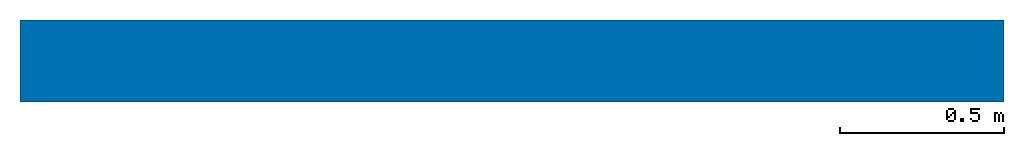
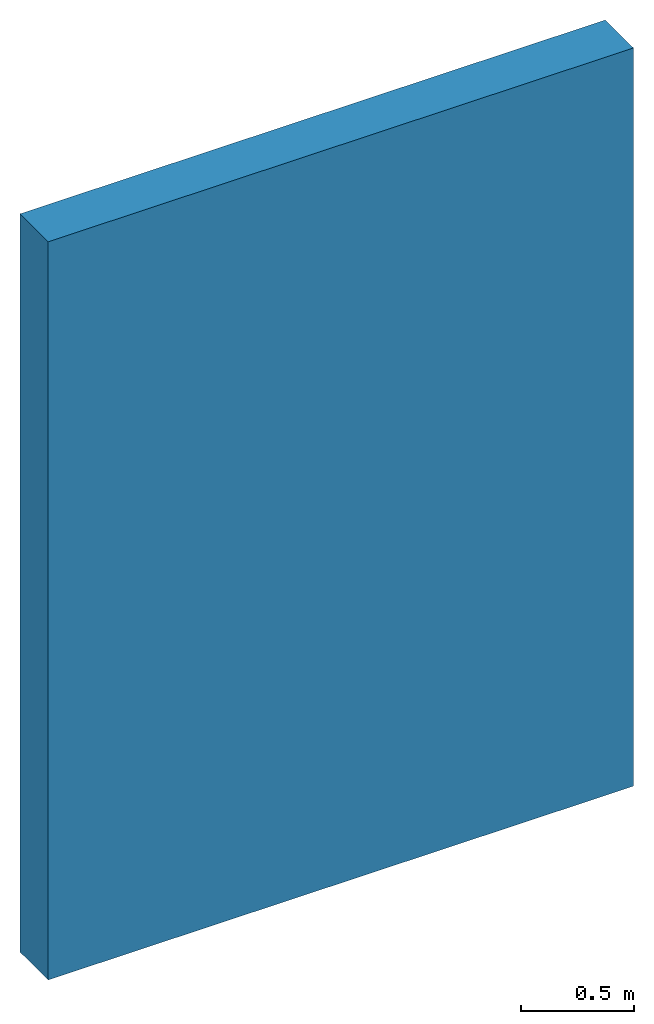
# One storey: 1 wall.
"""IFC2X3 building model written with IfcOpenShell, lengths in millimetres."""

import ifcopenshell
import ifcopenshell.guid

model = None  # the IFC model being written
_history = None  # IfcOwnerHistory: only IFC2X3 demands one
_inside = {}  # id of a spatial element -> (the spatial element, [elements in it])
_under = {}  # id of a project, library or spatial element -> (it, [spatial elements below it])
_declared = {}  # id of a project -> (the project, [libraries it declares])
_typed = {}  # id of a type object -> (the type object, [elements of that type])
_made_of = {}  # id of a material, layer set ... -> (it, [elements and type objects made of it])


def new_model(schema):
    """Start an empty IFC model of exactly this schema.

    Asked for "IFC4X3", IfcOpenShell would pick the latest addendum, in which some entities
    have other attributes; the version numbers below select the first issue.
    IFC2X3 requires an IfcOwnerHistory on every rooted entity: one is made here for all.
    """
    global model, _history
    if schema == "IFC4X3":
        model = ifcopenshell.file(schema_version=(4, 3, 0, 0))
    else:
        model = ifcopenshell.file(schema=schema)
    _inside.clear()
    _under.clear()
    _declared.clear()
    _typed.clear()
    _made_of.clear()
    _history = None
    if model.schema == "IFC2X3":
        org = make("IfcOrganization", Name="unknown")
        user = make(
            "IfcPersonAndOrganization",
            ThePerson=make("IfcPerson", FamilyName="unknown"),
            TheOrganization=org,
        )
        app = make(
            "IfcApplication",
            ApplicationDeveloper=org,
            Version="unknown",
            ApplicationFullName="unknown",
            ApplicationIdentifier="unknown",
        )
        _history = make(
            "IfcOwnerHistory",
            OwningUser=user,
            OwningApplication=app,
            ChangeAction="ADDED",
            CreationDate=0,
        )
    return model


def make(cls, **values):
    """One entity of the class cls with the attributes given. An attribute that is None is left unset."""
    return model.create_entity(
        cls, **{name: value for name, value in values.items() if value is not None}
    )


def entity(cls, *values):
    """Any entity or typed value of the class cls, its attributes in the order of the schema. None: left unset."""
    e = model.create_entity(cls)
    for i, value in enumerate(values):
        if value is not None:
            e[i] = value
    return e


def rooted(cls, **values):
    """An entity with a GlobalId (a new one), such as an element, a storey or a relation."""
    return make(cls, GlobalId=ifcopenshell.guid.new(), OwnerHistory=_history, **values)


def si_unit(unit_type, name, prefix=None):
    """IfcSIUnit, for example si_unit("LENGTHUNIT", "METRE", prefix="MILLI")."""
    return make("IfcSIUnit", UnitType=unit_type, Prefix=prefix, Name=name)


def converted_unit(unit_type, name, factor, base, dimensions=None, offset=None):
    """IfcConversionBasedUnit, such as the inch: factor (a typed value) times the base unit."""
    return make(
        "IfcConversionBasedUnit"
        if offset is None
        else "IfcConversionBasedUnitWithOffset",
        ConversionOffset=offset,
        Dimensions=None
        if dimensions is None
        else entity("IfcDimensionalExponents", *dimensions),
        UnitType=unit_type,
        Name=name,
        ConversionFactor=make(
            "IfcMeasureWithUnit", ValueComponent=factor, UnitComponent=base
        ),
    )


def derived_unit(unit_type, elements):
    """IfcDerivedUnit: a product of units, each with its exponent."""
    return make(
        "IfcDerivedUnit",
        Elements=[
            make("IfcDerivedUnitElement", Unit=unit, Exponent=power)
            for unit, power in elements
        ],
        UnitType=unit_type,
    )


def assignment(units):
    """IfcUnitAssignment: the units of a project."""
    return None if units is None else make("IfcUnitAssignment", Units=units)


def point(xyz):
    """IfcCartesianPoint."""
    return None if xyz is None else make("IfcCartesianPoint", Coordinates=xyz)


def direction(xyz):
    """IfcDirection."""
    return None if xyz is None else make("IfcDirection", DirectionRatios=xyz)


def frame(location, z_axis=None, x_axis=None):
    """IfcAxis2Placement3D, a coordinate frame: its origin and axes. An axis left out is left unset."""
    return make(
        "IfcAxis2Placement3D",
        Location=point(location),
        Axis=direction(z_axis),
        RefDirection=direction(x_axis),
    )


def frame_2d(location, x_axis=None):
    """IfcAxis2Placement2D, a coordinate frame in the plane: its origin and x axis."""
    return make(
        "IfcAxis2Placement2D", Location=point(location), RefDirection=direction(x_axis)
    )


def origin():
    """The frame at (0, 0, 0) with its axes left unset."""
    return frame((0.0, 0.0, 0.0))


def place(relative_to, where):
    """IfcLocalPlacement: puts the frame where relative to a parent placement (None: the world)."""
    return make(
        "IfcLocalPlacement", PlacementRelTo=relative_to, RelativePlacement=where
    )


def context(
    kind, dimensions, precision=None, world=None, true_north=None, identifier=None
):
    """IfcGeometricRepresentationContext, for example the 3D "Model" context."""
    return make(
        "IfcGeometricRepresentationContext",
        ContextIdentifier=identifier,
        ContextType=kind,
        CoordinateSpaceDimension=dimensions,
        Precision=precision,
        WorldCoordinateSystem=world,
        TrueNorth=true_north,
    )


def subcontext(parent, identifier, kind, view, scale=None):
    """IfcGeometricRepresentationSubContext, for example "Body" below "Model"."""
    return make(
        "IfcGeometricRepresentationSubContext",
        ContextIdentifier=identifier,
        ContextType=kind,
        ParentContext=parent,
        TargetScale=scale,
        TargetView=view,
    )


def project(units=None, contexts=None):
    """IfcProject with its units and contexts."""
    return rooted(
        "IfcProject",
        Name="project",
        RepresentationContexts=contexts,
        UnitsInContext=assignment(units),
    )


def spatial(cls, under=None, at=None, **own):
    """A site, building, storey or space (cls), placed at a placement, below another one or the project."""
    s = rooted(cls, ObjectPlacement=at, **own)
    if under is not None:
        _under.setdefault(under.id(), (under, []))[1].append(s)
    return s


def profile(cls, at=None, kind="AREA", **sizes):
    """A parametric profile (cls). Its sizes go by their IFC names, for example OverallWidth=200.0."""
    return make(cls, ProfileType=kind, Position=at, **sizes)


def rectangle(**sizes):
    """IfcRectangleProfileDef."""
    return profile("IfcRectangleProfileDef", **sizes)


def extrude(swept, where, along, depth):
    """IfcExtrudedAreaSolid: the profile swept, set in the frame where, extruded along a direction by depth."""
    return make(
        "IfcExtrudedAreaSolid",
        SweptArea=swept,
        Position=where,
        ExtrudedDirection=direction(along),
        Depth=depth,
    )


def shape(context_of_items, identifier, shape_type, items):
    """IfcShapeRepresentation: the items that make up one representation, for example the "Body"."""
    return make(
        "IfcShapeRepresentation",
        ContextOfItems=context_of_items,
        RepresentationIdentifier=identifier,
        RepresentationType=shape_type,
        Items=items,
    )


def material(Name=None, Category=None):
    """IfcMaterial."""
    return make("IfcMaterial", Name=Name, Category=Category)


def layer(
    of_material, thickness, ventilated=None, Name=None, Category=None, Priority=None
):
    """IfcMaterialLayer: one layer of a wall or slab, of a material (None: an air gap)."""
    return make(
        "IfcMaterialLayer",
        Material=of_material,
        LayerThickness=thickness,
        IsVentilated=ventilated,
        Name=Name,
        Category=Category,
        Priority=Priority,
    )


def layer_set(layers, Name=None):
    """IfcMaterialLayerSet."""
    return make("IfcMaterialLayerSet", MaterialLayers=layers, LayerSetName=Name)


def layer_usage(for_layer_set, set_direction, sense, offset, extent=None):
    """IfcMaterialLayerSetUsage: how a layer set lies in its element."""
    return make(
        "IfcMaterialLayerSetUsage",
        ForLayerSet=for_layer_set,
        LayerSetDirection=set_direction,
        DirectionSense=sense,
        OffsetFromReferenceLine=offset,
        ReferenceExtent=extent,
    )


def made_of(thing, what):
    """Note that an element or type object is made of a material, layer set ...; save() writes the relation."""
    if what is not None:
        _made_of.setdefault(what.id(), (what, []))[1].append(thing)
    return thing


def type_object(cls, material=None, **own):
    """A type object (cls), such as IfcWallType, which elements share."""
    return made_of(rooted(cls, **own), material)


def element(
    cls,
    number,
    at=None,
    inside=None,
    cuts=None,
    type_object=None,
    material=None,
    context=None,
    identifier="Body",
    shape_type=None,
    held_by="IfcProductDefinitionShape",
    body=None,
    shapes=None,
    **own,
):
    """One element of the class cls, such as IfcWall. Its Tag is "e" and its number.

    at: its placement. inside: the storey or other place that contains it. cuts: it is an
    opening in that element (IfcRelVoidsElement). A single representation is given by context,
    identifier, shape_type and body (its items); several are given by shapes. held_by: the class
    of the entity that holds the representations. save() writes the other relations.
    """
    e = rooted(cls, Tag="e%d" % number, ObjectPlacement=at, **own)
    if body is not None:
        shapes = [shape(context, identifier, shape_type, body)]
    if shapes is not None:
        e.Representation = make(held_by, Representations=shapes)
    if inside is not None:
        _inside.setdefault(inside.id(), (inside, []))[1].append(e)
    if cuts is not None:
        rooted(
            "IfcRelVoidsElement", RelatingBuildingElement=cuts, RelatedOpeningElement=e
        )
    if type_object is not None:
        _typed.setdefault(type_object.id(), (type_object, []))[1].append(e)
    return made_of(e, material)


def aggregate(whole, parts):
    """IfcRelAggregates: a whole, such as a stair, and the parts it consists of."""
    return rooted("IfcRelAggregates", RelatingObject=whole, RelatedObjects=parts)


def save(model, path):
    """Write the relations noted so far, then the file.

    IfcRelAggregates (storeys below a building ...), IfcRelContainedInSpatialStructure (elements
    in a storey), IfcRelDefinesByType, IfcRelAssociatesMaterial and IfcRelDeclares: one each for
    every whole, place, type object, material and project.
    """
    for whole, parts in _under.values():
        aggregate(whole, parts)
    for where, things in _inside.values():
        rooted(
            "IfcRelContainedInSpatialStructure",
            RelatedElements=things,
            RelatingStructure=where,
        )
    for kind, things in _typed.values():
        rooted("IfcRelDefinesByType", RelatedObjects=things, RelatingType=kind)
    for what, things in _made_of.values():
        rooted("IfcRelAssociatesMaterial", RelatedObjects=things, RelatingMaterial=what)
    for by, libraries in _declared.values():
        rooted("IfcRelDeclares", RelatingContext=by, RelatedDefinitions=libraries)
    model.write(path)


model = new_model("IFC2X3")

# Units and contexts
model_context = context("Model", 3, precision=0.01, world=origin(), true_north=direction((6.12303176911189e-17, 1.0)))
body_context = subcontext(model_context, "Body", "Model", "MODEL_VIEW")
ifc_project = project(units=[si_unit("LENGTHUNIT", "METRE", prefix="MILLI"), si_unit("AREAUNIT", "SQUARE_METRE"), si_unit("VOLUMEUNIT", "CUBIC_METRE"), converted_unit("PLANEANGLEUNIT", "DEGREE", entity("IfcRatioMeasure", 0.0174532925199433), si_unit("PLANEANGLEUNIT", "RADIAN"), dimensions=[0, 0, 0, 0, 0, 0, 0]), si_unit("MASSUNIT", "GRAM", prefix="KILO"), si_unit("TIMEUNIT", "SECOND"), si_unit("FREQUENCYUNIT", "HERTZ"), si_unit("THERMODYNAMICTEMPERATUREUNIT", "DEGREE_CELSIUS"), derived_unit("THERMALTRANSMITTANCEUNIT", [(si_unit("MASSUNIT", "GRAM", prefix="KILO"), 1), (si_unit("THERMODYNAMICTEMPERATUREUNIT", "KELVIN"), -1), (si_unit("TIMEUNIT", "SECOND"), -3)]), derived_unit("VOLUMETRICFLOWRATEUNIT", [(si_unit("LENGTHUNIT", "METRE"), 3), (si_unit("TIMEUNIT", "SECOND"), -1)]), si_unit("ELECTRICCURRENTUNIT", "AMPERE"), si_unit("ELECTRICVOLTAGEUNIT", "VOLT"), si_unit("POWERUNIT", "WATT"), si_unit("FORCEUNIT", "NEWTON", prefix="KILO"), si_unit("ILLUMINANCEUNIT", "LUX"), si_unit("LUMINOUSFLUXUNIT", "LUMEN"), si_unit("LUMINOUSINTENSITYUNIT", "CANDELA"), derived_unit("USERDEFINED", [(si_unit("MASSUNIT", "GRAM", prefix="KILO"), -1), (si_unit("LENGTHUNIT", "METRE"), -2), (si_unit("TIMEUNIT", "SECOND"), 3), (si_unit("LUMINOUSFLUXUNIT", "LUMEN"), 1)]), derived_unit("LINEARVELOCITYUNIT", [(si_unit("LENGTHUNIT", "METRE"), 1), (si_unit("TIMEUNIT", "SECOND"), -1)]), si_unit("PRESSUREUNIT", "PASCAL"), derived_unit("USERDEFINED", [(si_unit("LENGTHUNIT", "METRE"), -2), (si_unit("MASSUNIT", "GRAM", prefix="KILO"), 1), (si_unit("TIMEUNIT", "SECOND"), -2)])], contexts=[model_context])

# Site, building, storey
site_placement = place(None, origin())
site = spatial("IfcSite", under=ifc_project, at=site_placement, Name="Default", CompositionType="ELEMENT")
building_placement = place(site_placement, origin())
building = spatial("IfcBuilding", under=site, at=building_placement, CompositionType="ELEMENT")
storey_placement = place(building_placement, origin())
storey = spatial("IfcBuildingStorey", under=building, at=storey_placement, Name="Уровень 1", CompositionType="ELEMENT", Elevation=0.0)

# Wall
ifc_material_1 = material(Name="Кнауф-Плита пазогребневая")
ifc_layer_1 = layer(ifc_material_1, 100.0)
ifc_material_2 = material(Name="КНАУФ-профиль+мин.вата 50@600mm")
ifc_layer_2 = layer(ifc_material_2, 50.0)
ifc_layer_3 = layer(ifc_material_1, 100.0)
ifc_layer_set = layer_set([ifc_layer_1, ifc_layer_2, ifc_layer_3], Name="Базовая стена:Перегородка КНАУФ ПГП 100 Применение внутри здания Двойная ПлГ 100 Мин.вата")
ifc_layer_usage = layer_usage(ifc_layer_set, "AXIS2", "NEGATIVE", 125.0)
wall_type = type_object("IfcWallType", Name="Базовая стена:Перегородка КНАУФ ПГП 100 Применение внутри здания Двойная ПлГ 100 Мин.вата", PredefinedType="STANDARD", material=ifc_layer_set)
wall_placement = place(storey_placement, frame((3357.36069872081, 87.7207308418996, 0.0)))
element("IfcWallStandardCase", 1, at=wall_placement, inside=storey, type_object=wall_type, material=ifc_layer_usage, Name="Базовая стена:Перегородка КНАУФ ПГП 100 Применение внутри здания Двойная ПлГ 100 Мин.вата", ObjectType="Базовая стена:Перегородка КНАУФ ПГП 100 Применение внутри здания Двойная ПлГ 100 Мин.вата", context=body_context, shape_type="SweptSolid", body=[
    extrude(rectangle(XDim=3000.0, YDim=250.0, at=frame_2d((1500.0, -7.105427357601e-15), x_axis=(-1.0, 0.0))), origin(), (0.0, 0.0, 1.0), 4000.0),
])

save(model, "model.ifc")
